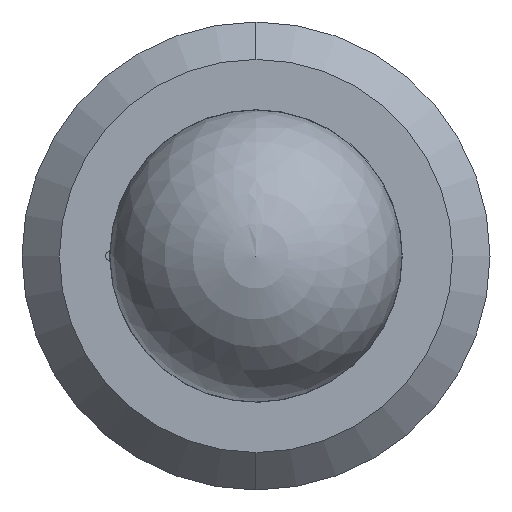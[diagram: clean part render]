
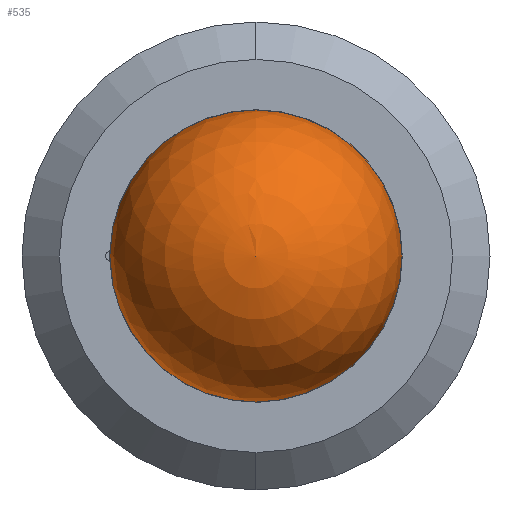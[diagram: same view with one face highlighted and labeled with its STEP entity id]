
A CAD part, left-side view. The second image highlights one B-rep face of the part: STEP entity #535.
In plain terms, the highlighted spherical face has radius 1.984 mm.
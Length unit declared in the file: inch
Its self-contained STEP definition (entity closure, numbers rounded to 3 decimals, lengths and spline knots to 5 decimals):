
#37 = CARTESIAN_POINT ( 'NONE',  ( 0., -0.07813, 0. ) ) ;
#60 = AXIS2_PLACEMENT_3D ( 'NONE', #525, #860, #379 ) ;
#72 = CIRCLE ( 'NONE', #702, 0.07813 ) ;
#94 = CARTESIAN_POINT ( 'NONE',  ( 0., 0., 0. ) ) ;
#101 = CIRCLE ( 'NONE', #772, 0.07813 ) ;
#173 = DIRECTION ( 'NONE',  ( 0., 0., 1. ) ) ;
#269 = EDGE_LOOP ( 'NONE', ( #300, #865, #409 ) ) ;
#289 = VERTEX_POINT ( 'NONE', #37 ) ;
#300 = ORIENTED_EDGE ( 'NONE', *, *, #347, .T. ) ;
#327 = DIRECTION ( 'NONE',  ( 1., 0., 0. ) ) ;
#347 = EDGE_CURVE ( 'NONE', #361, #819, #101, .T. ) ;
#349 = EDGE_CURVE ( 'NONE', #819, #289, #470, .T. ) ;
#354 = EDGE_CURVE ( 'NONE', #361, #289, #72, .T. ) ;
#361 = VERTEX_POINT ( 'NONE', #859 ) ;
#375 = CARTESIAN_POINT ( 'NONE',  ( 0., 0.07809, -0.0025 ) ) ;
#379 = DIRECTION ( 'NONE',  ( 0., 0., 1. ) ) ;
#390 = CARTESIAN_POINT ( 'NONE',  ( 0., 0., 0. ) ) ;
#409 = ORIENTED_EDGE ( 'NONE', *, *, #354, .F. ) ;
#462 = DIRECTION ( 'NONE',  ( 0., 0., 1. ) ) ;
#470 = CIRCLE ( 'NONE', #715, 0.07813 ) ;
#525 = CARTESIAN_POINT ( 'NONE',  ( 0., 0., 0. ) ) ;
#535 = ADVANCED_FACE ( 'NONE', ( #617 ), #791, .T. ) ;
#595 = DIRECTION ( 'NONE',  ( -1., 0., 0. ) ) ;
#617 = FACE_OUTER_BOUND ( 'NONE', #269, .T. ) ;
#702 = AXIS2_PLACEMENT_3D ( 'NONE', #738, #327, #797 ) ;
#715 = AXIS2_PLACEMENT_3D ( 'NONE', #94, #595, #173 ) ;
#738 = CARTESIAN_POINT ( 'NONE',  ( 0., 0., 0. ) ) ;
#772 = AXIS2_PLACEMENT_3D ( 'NONE', #390, #864, #462 ) ;
#791 = SPHERICAL_SURFACE ( 'NONE', #60, 0.07813 ) ;
#797 = DIRECTION ( 'NONE',  ( 0., 0., -1. ) ) ;
#819 = VERTEX_POINT ( 'NONE', #375 ) ;
#859 = CARTESIAN_POINT ( 'NONE',  ( 0., 0.07809, 0.0025 ) ) ;
#860 = DIRECTION ( 'NONE',  ( -1., 0., 0. ) ) ;
#864 = DIRECTION ( 'NONE',  ( -1., 0., 0. ) ) ;
#865 = ORIENTED_EDGE ( 'NONE', *, *, #349, .T. ) ;
